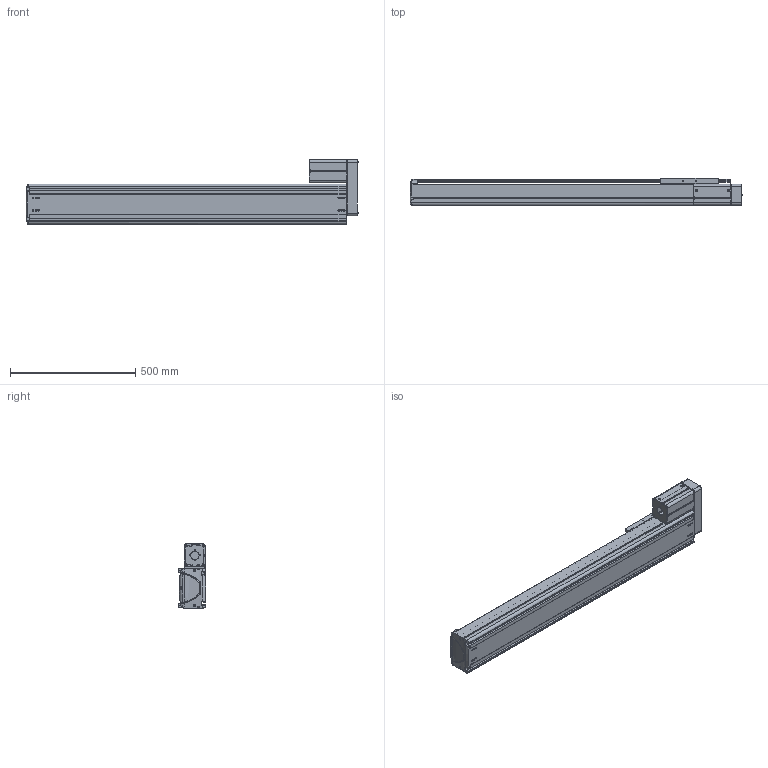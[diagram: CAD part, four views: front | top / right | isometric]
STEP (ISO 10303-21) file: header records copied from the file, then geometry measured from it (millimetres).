
FILE_DESCRIPTION((''),'2;1');
FILE_NAME('BE50F-UR-L_N-95_IGS_PRT','2017-06-18T',(' '),(''),'PRO/ENGINEER BY PARAMETRIC TECHNOLOGY CORPORATION, 2015030','PRO/ENGINEER BY PARAMETRIC TECHNOLOGY CORPORATION, 2015030','');
FILE_SCHEMA(('CONFIG_CONTROL_DESIGN'));
Length unit declared in the file: millimetre
Products named in the file (1): BE50F-UR-L_N-95_IGS_PRT
Bounding box: 1325.88 x 110 x 257 mm (x, y, z)
Volume: 5527500 mm3; surface area: 2261191.2 mm2
Topology: 6 solids, 140 shells, 2273 faces, 6240 edges, 4080 vertices
Faces by surface type: plane 1008, cylinder 987, cone 139, torus 59, bspline 48, sphere 32
Entity records: 75695 total; most frequent: CARTESIAN_POINT 17386, DIRECTION 12179, ORIENTED_EDGE 11868, EDGE_CURVE 6186, AXIS2_PLACEMENT_3D 4357, VERTEX_POINT 4074, VECTOR 3465, LINE 3465
